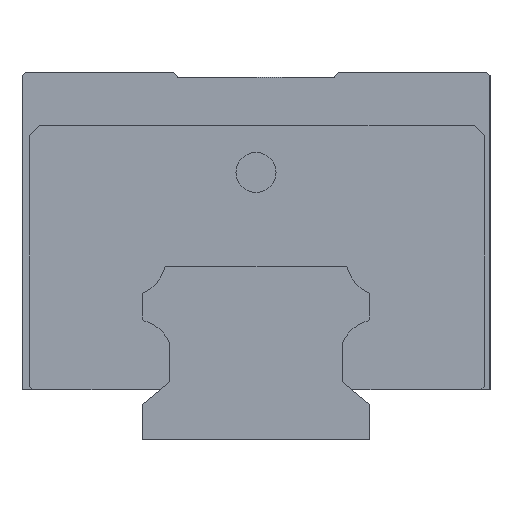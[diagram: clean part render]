
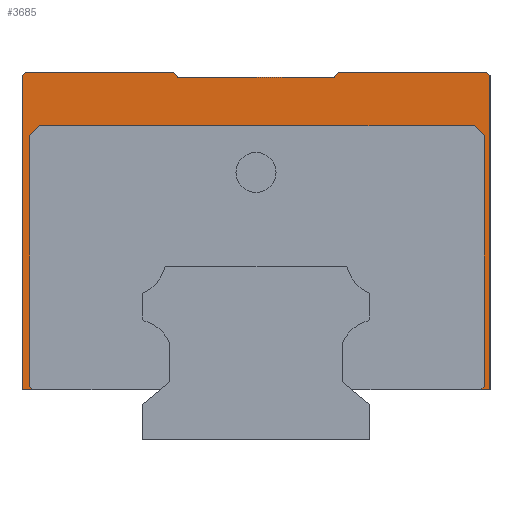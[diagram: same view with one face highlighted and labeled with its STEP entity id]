
A CAD part, left-side view. The second image highlights one B-rep face of the part: STEP entity #3685.
In plain terms, the highlighted planar face has unit normal (-1, 0, 0).
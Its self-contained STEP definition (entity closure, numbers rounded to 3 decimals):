
#25 = LINE ( 'NONE', #4056, #4090 ) ;
#132 = EDGE_CURVE ( 'NONE', #997, #3196, #3595, .T. ) ;
#141 = LINE ( 'NONE', #4640, #5760 ) ;
#196 = LINE ( 'NONE', #1617, #2083 ) ;
#227 = CARTESIAN_POINT ( 'NONE',  ( -61.5, -12.296, 55. ) ) ;
#255 = LINE ( 'NONE', #5574, #3023 ) ;
#268 = VERTEX_POINT ( 'NONE', #1017 ) ;
#299 = VERTEX_POINT ( 'NONE', #5250 ) ;
#336 = EDGE_CURVE ( 'NONE', #2529, #2611, #4773, .T. ) ;
#337 = LINE ( 'NONE', #3991, #5409 ) ;
#405 = VECTOR ( 'NONE', #5554, 1000. ) ;
#431 = CARTESIAN_POINT ( 'NONE',  ( -61.5, 35., 7.5 ) ) ;
#473 = AXIS2_PLACEMENT_3D ( 'NONE', #1850, #4103, #3650 ) ;
#502 = VERTEX_POINT ( 'NONE', #3692 ) ;
#578 = CARTESIAN_POINT ( 'NONE',  ( -61.5, 34.5, 55. ) ) ;
#621 = CARTESIAN_POINT ( 'NONE',  ( -61.5, -34.128, 45.5 ) ) ;
#799 = CARTESIAN_POINT ( 'NONE',  ( -61.5, 33.872, 45.5 ) ) ;
#883 = ORIENTED_EDGE ( 'NONE', *, *, #1192, .F. ) ;
#888 = ORIENTED_EDGE ( 'NONE', *, *, #4876, .F. ) ;
#929 = EDGE_CURVE ( 'NONE', #1245, #268, #141, .T. ) ;
#932 = DIRECTION ( 'NONE',  ( 0., 0.707, 0.707 ) ) ;
#947 = VERTEX_POINT ( 'NONE', #4222 ) ;
#969 = EDGE_CURVE ( 'NONE', #4005, #997, #1532, .T. ) ;
#997 = VERTEX_POINT ( 'NONE', #5522 ) ;
#1001 = EDGE_CURVE ( 'NONE', #1273, #502, #2418, .T. ) ;
#1017 = CARTESIAN_POINT ( 'NONE',  ( -61.5, -34.128, 8. ) ) ;
#1051 = EDGE_CURVE ( 'NONE', #3226, #5675, #4759, .T. ) ;
#1130 = ORIENTED_EDGE ( 'NONE', *, *, #3107, .F. ) ;
#1151 = DIRECTION ( 'NONE',  ( 0., 0.643, 0.766 ) ) ;
#1192 = EDGE_CURVE ( 'NONE', #947, #1245, #2999, .T. ) ;
#1205 = ORIENTED_EDGE ( 'NONE', *, *, #1001, .F. ) ;
#1245 = VERTEX_POINT ( 'NONE', #5702 ) ;
#1253 = CARTESIAN_POINT ( 'NONE',  ( -61.5, -12.296, 55. ) ) ;
#1273 = VERTEX_POINT ( 'NONE', #799 ) ;
#1348 = CARTESIAN_POINT ( 'NONE',  ( -61.5, 33.372, 7.5 ) ) ;
#1353 = CARTESIAN_POINT ( 'NONE',  ( -61.5, 32.372, 47. ) ) ;
#1392 = DIRECTION ( 'NONE',  ( 0., 0., 1. ) ) ;
#1466 = LINE ( 'NONE', #4581, #5169 ) ;
#1532 = LINE ( 'NONE', #4110, #405 ) ;
#1551 = DIRECTION ( 'NONE',  ( 0., 1., 0. ) ) ;
#1617 = CARTESIAN_POINT ( 'NONE',  ( -61.5, 34.5, 55. ) ) ;
#1740 = ORIENTED_EDGE ( 'NONE', *, *, #1975, .F. ) ;
#1761 = EDGE_CURVE ( 'NONE', #4040, #299, #2811, .T. ) ;
#1807 = ORIENTED_EDGE ( 'NONE', *, *, #336, .T. ) ;
#1850 = CARTESIAN_POINT ( 'NONE',  ( -61.5, -35., 55. ) ) ;
#1919 = VECTOR ( 'NONE', #2779, 1000. ) ;
#1975 = EDGE_CURVE ( 'NONE', #502, #4005, #25, .T. ) ;
#2083 = VECTOR ( 'NONE', #3798, 1000. ) ;
#2145 = VECTOR ( 'NONE', #2562, 1000. ) ;
#2146 = DIRECTION ( 'NONE',  ( 0., 1., 0. ) ) ;
#2186 = ORIENTED_EDGE ( 'NONE', *, *, #4993, .T. ) ;
#2235 = CARTESIAN_POINT ( 'NONE',  ( -61.5, 35., 55. ) ) ;
#2338 = EDGE_CURVE ( 'NONE', #2611, #3226, #337, .T. ) ;
#2341 = CARTESIAN_POINT ( 'NONE',  ( -61.5, -35., 54.5 ) ) ;
#2380 = VERTEX_POINT ( 'NONE', #578 ) ;
#2418 = LINE ( 'NONE', #5021, #1919 ) ;
#2445 = DIRECTION ( 'NONE',  ( 0., 0.707, 0.707 ) ) ;
#2487 = CARTESIAN_POINT ( 'NONE',  ( -61.5, -35., 7.5 ) ) ;
#2518 = CARTESIAN_POINT ( 'NONE',  ( -61.5, 11.667, 54.25 ) ) ;
#2528 = ORIENTED_EDGE ( 'NONE', *, *, #3606, .F. ) ;
#2529 = VERTEX_POINT ( 'NONE', #227 ) ;
#2562 = DIRECTION ( 'NONE',  ( 0., 0.643, -0.766 ) ) ;
#2605 = LINE ( 'NONE', #4466, #4596 ) ;
#2611 = VERTEX_POINT ( 'NONE', #5199 ) ;
#2634 = EDGE_CURVE ( 'NONE', #5273, #4679, #255, .T. ) ;
#2716 = DIRECTION ( 'NONE',  ( 0., -1., 0. ) ) ;
#2726 = LINE ( 'NONE', #4566, #3947 ) ;
#2779 = DIRECTION ( 'NONE',  ( 0., 0., -1. ) ) ;
#2790 = CARTESIAN_POINT ( 'NONE',  ( -61.5, 12.296, 55. ) ) ;
#2811 = LINE ( 'NONE', #2907, #5683 ) ;
#2863 = CARTESIAN_POINT ( 'NONE',  ( -61.5, -32.628, 47. ) ) ;
#2887 = VERTEX_POINT ( 'NONE', #621 ) ;
#2907 = CARTESIAN_POINT ( 'NONE',  ( -61.5, -35., 54.5 ) ) ;
#2914 = DIRECTION ( 'NONE',  ( 0., 0.707, -0.707 ) ) ;
#2981 = ORIENTED_EDGE ( 'NONE', *, *, #4528, .F. ) ;
#2999 = LINE ( 'NONE', #2487, #5115 ) ;
#3023 = VECTOR ( 'NONE', #1551, 1000. ) ;
#3107 = EDGE_CURVE ( 'NONE', #2380, #5675, #2605, .T. ) ;
#3169 = EDGE_LOOP ( 'NONE', ( #3925, #4716, #883, #888, #5362, #4097, #1807, #3379, #3810, #1130, #2186, #3308, #4769, #1740, #1205, #2981, #5816, #2528 ) ) ;
#3196 = VERTEX_POINT ( 'NONE', #4136 ) ;
#3226 = VERTEX_POINT ( 'NONE', #3743 ) ;
#3308 = ORIENTED_EDGE ( 'NONE', *, *, #132, .F. ) ;
#3346 = LINE ( 'NONE', #5622, #5446 ) ;
#3379 = ORIENTED_EDGE ( 'NONE', *, *, #2338, .T. ) ;
#3553 = VECTOR ( 'NONE', #4868, 1000. ) ;
#3595 = LINE ( 'NONE', #431, #3553 ) ;
#3606 = EDGE_CURVE ( 'NONE', #2887, #5273, #4130, .T. ) ;
#3650 = DIRECTION ( 'NONE',  ( 0., 1., 0. ) ) ;
#3685 = ADVANCED_FACE ( 'NONE', ( #4078 ), #5487, .F. ) ;
#3692 = CARTESIAN_POINT ( 'NONE',  ( -61.5, 33.872, 8. ) ) ;
#3708 = CARTESIAN_POINT ( 'NONE',  ( -61.5, -34.128, 45.5 ) ) ;
#3743 = CARTESIAN_POINT ( 'NONE',  ( -61.5, 11.667, 54.25 ) ) ;
#3767 = DIRECTION ( 'NONE',  ( 0., 0., -1. ) ) ;
#3798 = DIRECTION ( 'NONE',  ( 0., 0.707, -0.707 ) ) ;
#3810 = ORIENTED_EDGE ( 'NONE', *, *, #1051, .T. ) ;
#3925 = ORIENTED_EDGE ( 'NONE', *, *, #4446, .F. ) ;
#3947 = VECTOR ( 'NONE', #1392, 1000. ) ;
#3991 = CARTESIAN_POINT ( 'NONE',  ( -61.5, -11.667, 54.25 ) ) ;
#4005 = VERTEX_POINT ( 'NONE', #1348 ) ;
#4040 = VERTEX_POINT ( 'NONE', #2341 ) ;
#4056 = CARTESIAN_POINT ( 'NONE',  ( -61.5, 33.872, 8. ) ) ;
#4078 = FACE_OUTER_BOUND ( 'NONE', #3169, .T. ) ;
#4090 = VECTOR ( 'NONE', #5465, 1000. ) ;
#4097 = ORIENTED_EDGE ( 'NONE', *, *, #4702, .F. ) ;
#4103 = DIRECTION ( 'NONE',  ( 1., 0., 0. ) ) ;
#4110 = CARTESIAN_POINT ( 'NONE',  ( -61.5, 14.65, 7.5 ) ) ;
#4130 = LINE ( 'NONE', #3708, #4787 ) ;
#4136 = CARTESIAN_POINT ( 'NONE',  ( -61.5, 35., 54.5 ) ) ;
#4222 = CARTESIAN_POINT ( 'NONE',  ( -61.5, -35., 7.5 ) ) ;
#4259 = DIRECTION ( 'NONE',  ( 0., 1., 0. ) ) ;
#4446 = EDGE_CURVE ( 'NONE', #268, #2887, #2726, .T. ) ;
#4466 = CARTESIAN_POINT ( 'NONE',  ( -61.5, 35., 55. ) ) ;
#4528 = EDGE_CURVE ( 'NONE', #4679, #1273, #3346, .T. ) ;
#4566 = CARTESIAN_POINT ( 'NONE',  ( -61.5, -34.128, 8. ) ) ;
#4581 = CARTESIAN_POINT ( 'NONE',  ( -61.5, -35., 55. ) ) ;
#4596 = VECTOR ( 'NONE', #5819, 1000. ) ;
#4640 = CARTESIAN_POINT ( 'NONE',  ( -61.5, -33.628, 7.5 ) ) ;
#4668 = DIRECTION ( 'NONE',  ( 0., -0.707, 0.707 ) ) ;
#4679 = VERTEX_POINT ( 'NONE', #1353 ) ;
#4702 = EDGE_CURVE ( 'NONE', #2529, #299, #5377, .T. ) ;
#4716 = ORIENTED_EDGE ( 'NONE', *, *, #929, .F. ) ;
#4759 = LINE ( 'NONE', #2518, #5109 ) ;
#4769 = ORIENTED_EDGE ( 'NONE', *, *, #969, .F. ) ;
#4773 = LINE ( 'NONE', #1253, #2145 ) ;
#4787 = VECTOR ( 'NONE', #932, 1000. ) ;
#4868 = DIRECTION ( 'NONE',  ( 0., 0., 1. ) ) ;
#4876 = EDGE_CURVE ( 'NONE', #4040, #947, #1466, .T. ) ;
#4993 = EDGE_CURVE ( 'NONE', #2380, #3196, #196, .T. ) ;
#5021 = CARTESIAN_POINT ( 'NONE',  ( -61.5, 33.872, 45.5 ) ) ;
#5088 = VECTOR ( 'NONE', #2716, 1000. ) ;
#5109 = VECTOR ( 'NONE', #1151, 1000. ) ;
#5115 = VECTOR ( 'NONE', #4259, 1000. ) ;
#5169 = VECTOR ( 'NONE', #3767, 1000. ) ;
#5199 = CARTESIAN_POINT ( 'NONE',  ( -61.5, -11.667, 54.25 ) ) ;
#5250 = CARTESIAN_POINT ( 'NONE',  ( -61.5, -34.5, 55. ) ) ;
#5273 = VERTEX_POINT ( 'NONE', #2863 ) ;
#5362 = ORIENTED_EDGE ( 'NONE', *, *, #1761, .T. ) ;
#5377 = LINE ( 'NONE', #2235, #5088 ) ;
#5409 = VECTOR ( 'NONE', #2146, 1000. ) ;
#5446 = VECTOR ( 'NONE', #2914, 1000. ) ;
#5465 = DIRECTION ( 'NONE',  ( 0., -0.707, -0.707 ) ) ;
#5487 = PLANE ( 'NONE',  #473 ) ;
#5522 = CARTESIAN_POINT ( 'NONE',  ( -61.5, 35., 7.5 ) ) ;
#5554 = DIRECTION ( 'NONE',  ( 0., 1., 0. ) ) ;
#5574 = CARTESIAN_POINT ( 'NONE',  ( -61.5, -32.628, 47. ) ) ;
#5622 = CARTESIAN_POINT ( 'NONE',  ( -61.5, 32.372, 47. ) ) ;
#5675 = VERTEX_POINT ( 'NONE', #2790 ) ;
#5683 = VECTOR ( 'NONE', #2445, 1000. ) ;
#5702 = CARTESIAN_POINT ( 'NONE',  ( -61.5, -33.628, 7.5 ) ) ;
#5760 = VECTOR ( 'NONE', #4668, 1000. ) ;
#5816 = ORIENTED_EDGE ( 'NONE', *, *, #2634, .F. ) ;
#5819 = DIRECTION ( 'NONE',  ( 0., -1., 0. ) ) ;
